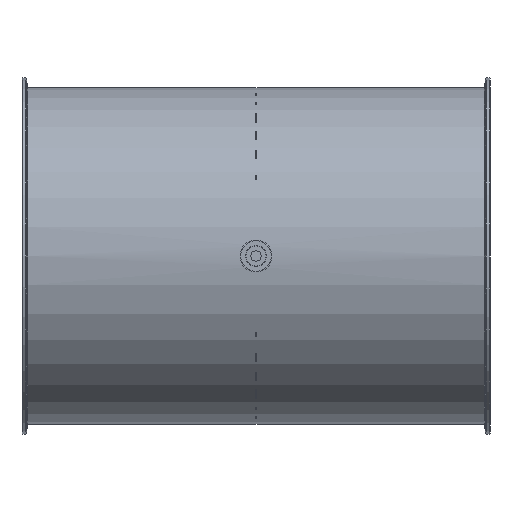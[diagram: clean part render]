
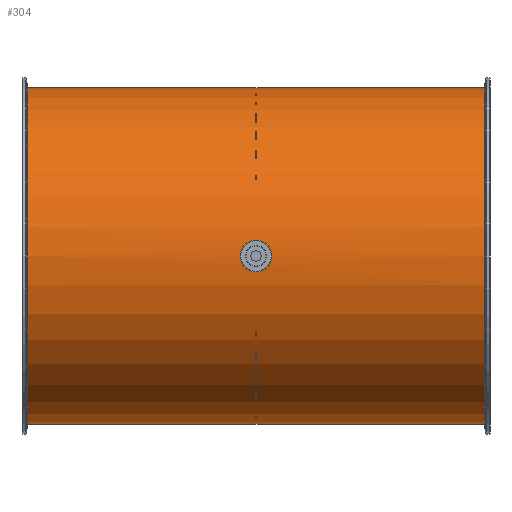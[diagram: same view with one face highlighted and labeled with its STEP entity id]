
A CAD part, front view. The second image highlights one B-rep face of the part: STEP entity #304.
In plain terms, the highlighted cylindrical face has radius 158.3 mm (diameter 316.6 mm), a full revolution.
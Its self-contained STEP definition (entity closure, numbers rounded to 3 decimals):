
#199=B_SPLINE_CURVE_WITH_KNOTS('',3,(#1684,#1685,#1686,#1687,#1688,#1689,
#1690,#1691,#1692,#1693,#1694,#1695,#1696,#1697,#1698,#1699,#1700,#1701),
 .UNSPECIFIED.,.T.,.F.,(2,2,2,2,2,2,2,2,2,2,2),(-0.125,0.,0.125,
0.25,0.375,0.5,0.625,0.75,0.875,1.,
1.125),.UNSPECIFIED.);
#200=B_SPLINE_CURVE_WITH_KNOTS('',3,(#1703,#1704,#1705,#1706,#1707,#1708,
#1709,#1710,#1711,#1712,#1713,#1714,#1715,#1716,#1717,#1718,#1719,#1720),
 .UNSPECIFIED.,.T.,.F.,(2,2,2,2,2,2,2,2,2,2,2),(-0.125,0.,0.125,
0.25,0.375,0.5,0.625,0.75,0.875,1.,
1.125),.UNSPECIFIED.);
#260=CYLINDRICAL_SURFACE('',#1185,158.3);
#304=ADVANCED_FACE('',(#435,#436,#437,#438),#260,.T.);
#435=FACE_BOUND('',#539,.T.);
#436=FACE_BOUND('',#540,.T.);
#437=FACE_BOUND('',#541,.T.);
#438=FACE_BOUND('',#542,.T.);
#539=EDGE_LOOP('',(#671));
#540=EDGE_LOOP('',(#672));
#541=EDGE_LOOP('',(#673));
#542=EDGE_LOOP('',(#674));
#671=ORIENTED_EDGE('',*,*,#975,.T.);
#672=ORIENTED_EDGE('',*,*,#976,.F.);
#673=ORIENTED_EDGE('',*,*,#977,.F.);
#674=ORIENTED_EDGE('',*,*,#978,.T.);
#885=VERTEX_POINT('',#1683);
#886=VERTEX_POINT('',#1702);
#887=VERTEX_POINT('',#1721);
#888=VERTEX_POINT('',#1723);
#975=EDGE_CURVE('',#885,#885,#1093,.T.);
#976=EDGE_CURVE('',#886,#886,#199,.T.);
#977=EDGE_CURVE('',#887,#887,#200,.T.);
#978=EDGE_CURVE('',#888,#888,#1094,.T.);
#1093=CIRCLE('',#1183,158.3);
#1094=CIRCLE('',#1184,158.3);
#1183=AXIS2_PLACEMENT_3D('',#1682,#1372,#1373);
#1184=AXIS2_PLACEMENT_3D('',#1722,#1374,#1375);
#1185=AXIS2_PLACEMENT_3D('',#1724,#1376,#1377);
#1372=DIRECTION('',(-1.,0.,0.));
#1373=DIRECTION('',(0.,0.,-1.));
#1374=DIRECTION('',(1.,0.,0.));
#1375=DIRECTION('',(0.,0.,1.));
#1376=DIRECTION('',(1.,0.,0.));
#1377=DIRECTION('',(0.,0.,-1.));
#1682=CARTESIAN_POINT('',(214.804,-51.,125.));
#1683=CARTESIAN_POINT('',(214.804,-51.,-33.3));
#1684=CARTESIAN_POINT('',(2.643,106.984,115.));
#1685=CARTESIAN_POINT('',(-2.643,106.984,115.));
#1686=CARTESIAN_POINT('',(-5.227,107.06,116.085));
#1687=CARTESIAN_POINT('',(-8.916,107.225,119.774));
#1688=CARTESIAN_POINT('',(-9.999,107.3,122.385));
#1689=CARTESIAN_POINT('',(-10.001,107.3,127.604));
#1690=CARTESIAN_POINT('',(-8.941,107.226,130.2));
#1691=CARTESIAN_POINT('',(-5.208,107.059,133.936));
#1692=CARTESIAN_POINT('',(-2.614,106.984,134.999));
#1693=CARTESIAN_POINT('',(2.607,106.984,135.001));
#1694=CARTESIAN_POINT('',(5.219,107.059,133.92));
#1695=CARTESIAN_POINT('',(8.91,107.224,130.236));
#1696=CARTESIAN_POINT('',(9.997,107.3,127.649));
#1697=CARTESIAN_POINT('',(10.003,107.3,122.37));
#1698=CARTESIAN_POINT('',(8.921,107.225,119.782));
#1699=CARTESIAN_POINT('',(5.233,107.06,116.088));
#1700=CARTESIAN_POINT('',(2.643,106.984,115.));
#1701=CARTESIAN_POINT('',(-2.643,106.984,115.));
#1702=CARTESIAN_POINT('',(0.,106.984,115.));
#1703=CARTESIAN_POINT('',(-2.643,-208.984,115.));
#1704=CARTESIAN_POINT('',(2.643,-208.984,115.));
#1705=CARTESIAN_POINT('',(5.227,-209.06,116.085));
#1706=CARTESIAN_POINT('',(8.916,-209.225,119.774));
#1707=CARTESIAN_POINT('',(9.999,-209.3,122.385));
#1708=CARTESIAN_POINT('',(10.001,-209.3,127.604));
#1709=CARTESIAN_POINT('',(8.941,-209.226,130.2));
#1710=CARTESIAN_POINT('',(5.208,-209.059,133.936));
#1711=CARTESIAN_POINT('',(2.614,-208.984,134.999));
#1712=CARTESIAN_POINT('',(-2.607,-208.984,135.001));
#1713=CARTESIAN_POINT('',(-5.219,-209.059,133.92));
#1714=CARTESIAN_POINT('',(-8.91,-209.224,130.236));
#1715=CARTESIAN_POINT('',(-9.997,-209.3,127.649));
#1716=CARTESIAN_POINT('',(-10.003,-209.3,122.37));
#1717=CARTESIAN_POINT('',(-8.921,-209.225,119.782));
#1718=CARTESIAN_POINT('',(-5.233,-209.06,116.088));
#1719=CARTESIAN_POINT('',(-2.643,-208.984,115.));
#1720=CARTESIAN_POINT('',(2.643,-208.984,115.));
#1721=CARTESIAN_POINT('',(0.,-208.984,115.));
#1722=CARTESIAN_POINT('',(-214.804,-51.,125.));
#1723=CARTESIAN_POINT('',(-214.804,-51.,283.3));
#1724=CARTESIAN_POINT('',(-220.,-51.,125.));
